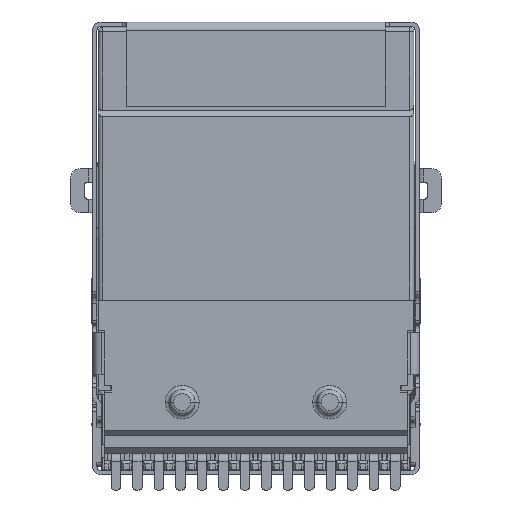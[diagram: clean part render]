
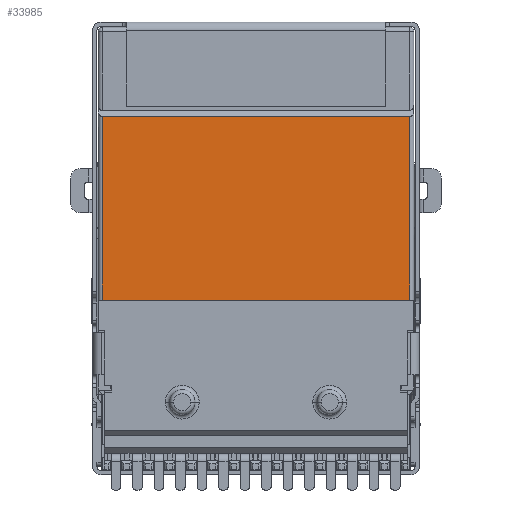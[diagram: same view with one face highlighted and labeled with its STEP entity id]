
A CAD part, front view. The second image highlights one B-rep face of the part: STEP entity #33985.
In plain terms, the highlighted planar face has unit normal (0, -1, 0).
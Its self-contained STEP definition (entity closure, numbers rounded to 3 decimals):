
#5438=DIRECTION('',(1.,0.,0.));
#5439=VECTOR('',#5438,14.6);
#5440=CARTESIAN_POINT('',(-7.3,0.,-12.95));
#5441=LINE('',#5440,#5439);
#7814=DIRECTION('',(0.,0.,1.));
#7815=VECTOR('',#7814,8.7);
#7816=CARTESIAN_POINT('',(7.3,0.,-12.95));
#7817=LINE('',#7816,#7815);
#7830=DIRECTION('',(1.,0.,0.));
#7831=VECTOR('',#7830,14.6);
#7832=CARTESIAN_POINT('',(-7.3,0.,-4.25));
#7833=LINE('',#7832,#7831);
#7842=DIRECTION('',(0.,0.,-1.));
#7843=VECTOR('',#7842,8.7);
#7844=CARTESIAN_POINT('',(-7.3,0.,-4.25));
#7845=LINE('',#7844,#7843);
#19812=CARTESIAN_POINT('',(-7.3,0.,-12.95));
#19813=VERTEX_POINT('',#19812);
#19814=CARTESIAN_POINT('',(7.3,0.,-12.95));
#19815=VERTEX_POINT('',#19814);
#20622=CARTESIAN_POINT('',(7.3,0.,-4.25));
#20623=VERTEX_POINT('',#20622);
#20624=CARTESIAN_POINT('',(-7.3,0.,-4.25));
#20625=VERTEX_POINT('',#20624);
#33972=CARTESIAN_POINT('',(0.,0.,-8.6));
#33973=DIRECTION('',(0.,1.,0.));
#33974=DIRECTION('',(0.,0.,-1.));
#33975=AXIS2_PLACEMENT_3D('',#33972,#33973,#33974);
#33976=PLANE('',#33975);
#33978=ORIENTED_EDGE('',*,*,#33977,.F.);
#33980=ORIENTED_EDGE('',*,*,#33979,.T.);
#33981=ORIENTED_EDGE('',*,*,#33964,.F.);
#33982=ORIENTED_EDGE('',*,*,#30581,.F.);
#33983=EDGE_LOOP('',(#33978,#33980,#33981,#33982));
#33984=FACE_OUTER_BOUND('',#33983,.F.);
#33985=ADVANCED_FACE('',(#33984),#33976,.F.);
#30581=EDGE_CURVE('',#19813,#19815,#5441,.T.);
#33964=EDGE_CURVE('',#19815,#20623,#7817,.T.);
#33977=EDGE_CURVE('',#20625,#19813,#7845,.T.);
#33979=EDGE_CURVE('',#20625,#20623,#7833,.T.);
